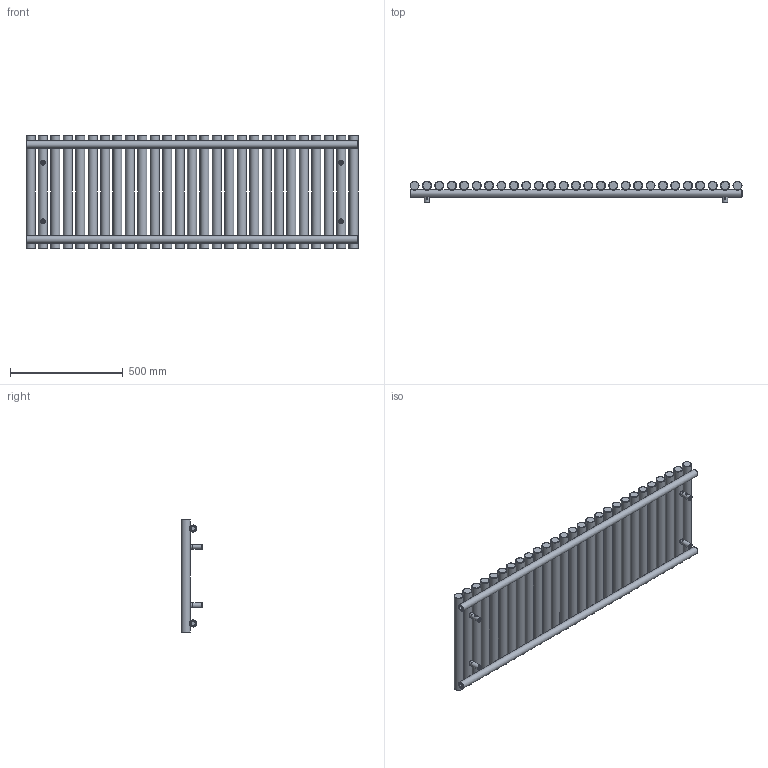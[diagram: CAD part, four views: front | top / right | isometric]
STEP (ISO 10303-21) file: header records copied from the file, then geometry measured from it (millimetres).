
FILE_DESCRIPTION(/* description */ (''),/* implementation_level */ '2;1');
FILE_NAME(/* name */ 'Z:\R\G\P\RGP116 - Grzejniki Geyser\Work\Inventor\Circolo (Rolo V, Rolo H)\ROLO-ROOM\Marketing\Zaokrąglone\WGROR050147-LP-CK-(Z).stp',/* time_stamp */ '2024-01-19T14:04:03+01:00',/* author */ ('NowAd'),/* organization */ (''),/* preprocessor_version */ 'ST-DEVELOPER v17.2',/* originating_system */ 'Autodesk Inventor 2019',/* authorisation */ '');
FILE_SCHEMA (('AP203_CONFIGURATION_CONTROLLED_3D_DESIGN_OF_MECHANICAL_PARTS_AND_ASSEMBLIES_MIM_LF { 1 0 10303 203 3 1 4 }','AUTOMOTIVE_DESIGN { 1 0 10303 214 3 1 1 }'));
Length unit declared in the file: millimetre
Products named in the file (3): WGROR050147-LP-CK-(Z); PGROR050147-LP-CK-(Z); CK-V-fi40 marketing
Assembly tree (5 placements, depth 2):
  WGROR050147-LP-CK-(Z)
    PGROR050147-LP-CK-(Z)
    CK-V-fi40 marketing  x4
Bounding box: 1470 x 96.5 x 500 mm (x, y, z)
Volume: 19353703.5 mm3; surface area: 2057533.2 mm2
Topology: 5 solids, 5 shells, 475 faces, 1139 edges, 762 vertices
Faces by surface type: plane 178, cylinder 97, torus 86, cone 60, bspline 54
Full cylindrical faces by diameter (mm): 4.134 x4, 4.48 x4, 6.4 x4, 10 x4, 12 x4, 15.834 x4, 16 x4, 18.631 x4, 22 x4, 32 x2, 40 x27
Entity records: 18175 total; most frequent: CARTESIAN_POINT 11465, DIRECTION 1384, ORIENTED_EDGE 1316, EDGE_CURVE 658, AXIS2_PLACEMENT_3D 643, VERTEX_POINT 444, EDGE_LOOP 420, CIRCLE 389
